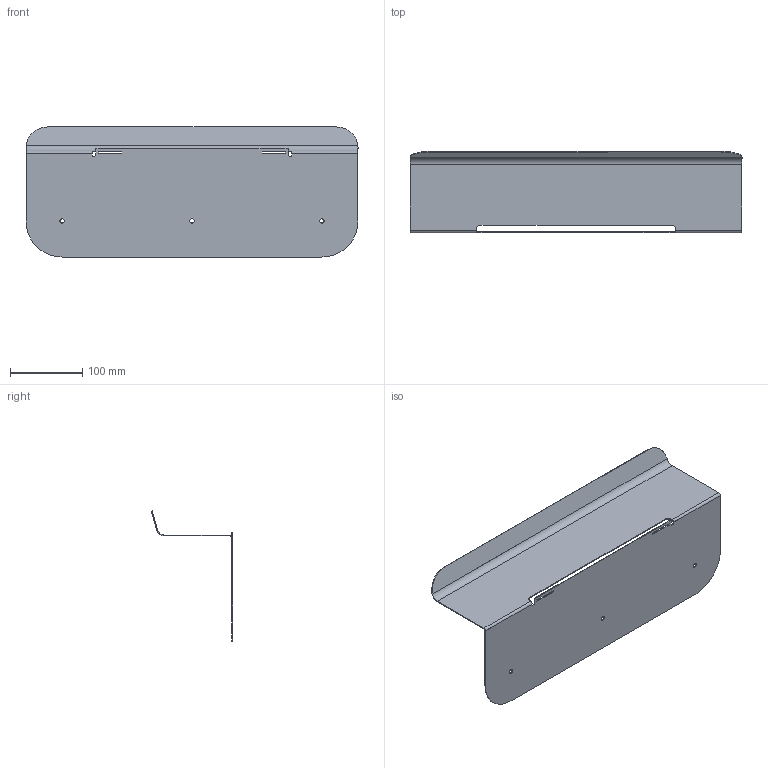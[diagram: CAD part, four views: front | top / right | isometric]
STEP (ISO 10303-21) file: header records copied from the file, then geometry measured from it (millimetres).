
FILE_DESCRIPTION (( 'STEP AP214' ), '1' );
FILE_NAME ('NIK_103.STEP', '2021-11-29T08:43:36', ( '' ), ( '' ), 'SwSTEP 2.0', 'SolidWorks 2019', '' );
FILE_SCHEMA (( 'AUTOMOTIVE_DESIGN' ));
Length unit declared in the file: millimetre
Products named in the file (1): NIK_103
Bounding box: 460 x 112.85 x 180.25 mm (x, y, z)
Volume: 151576.6 mm3; surface area: 251942.5 mm2
Topology: 1 solids, 1 shells, 54 faces, 138 edges, 84 vertices
Faces by surface type: plane 28, cylinder 20, bspline 6
Entity records: 1784 total; most frequent: CARTESIAN_POINT 461, ORIENTED_EDGE 276, DIRECTION 252, EDGE_CURVE 138, AXIS2_PLACEMENT_3D 85, VERTEX_POINT 84, LINE 82, VECTOR 82
